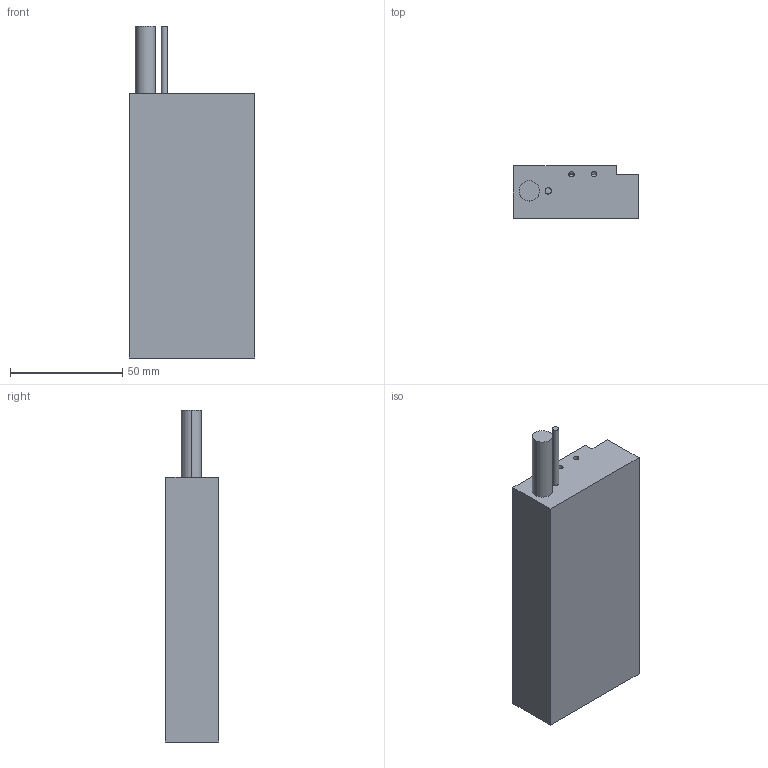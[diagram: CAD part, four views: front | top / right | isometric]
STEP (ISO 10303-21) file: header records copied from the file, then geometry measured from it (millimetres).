
FILE_DESCRIPTION (( 'STEP AP203' ), '1' );
FILE_NAME ('LMSA11.STEP', '2016-05-13T03:59:16', ( '' ), ( '' ), 'SwSTEP 2.0', 'SolidWorks 2015', '' );
FILE_SCHEMA (( 'CONFIG_CONTROL_DESIGN' ));
Length unit declared in the file: millimetre
Products named in the file (1): LMSA11
Bounding box: 56 x 23.7 x 148 mm (x, y, z)
Volume: 153331.5 mm3; surface area: 22826.9 mm2
Topology: 1 solids, 1 shells, 48 faces, 116 edges, 64 vertices
Faces by surface type: cylinder 20, cone 16, plane 12
Entity records: 1357 total; most frequent: DIRECTION 238, CARTESIAN_POINT 213, ORIENTED_EDGE 200, EDGE_CURVE 100, AXIS2_PLACEMENT_3D 89, VERTEX_POINT 64, LINE 60, VECTOR 60
